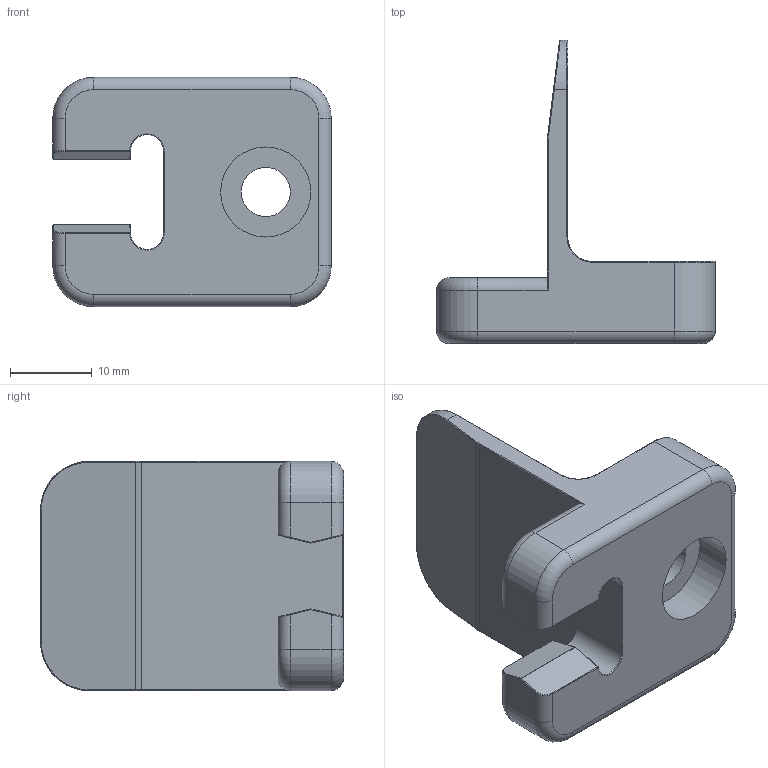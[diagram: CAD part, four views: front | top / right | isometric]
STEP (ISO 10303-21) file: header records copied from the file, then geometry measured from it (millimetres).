
FILE_DESCRIPTION (( 'STEP AP214' ), '1' );
FILE_NAME ('L19166-fixe.step', '2024-12-03T16:23:01', ( '' ), ( '' ), 'SwSTEP 2.0', 'SolidWorks 2023', '' );
FILE_SCHEMA (( 'AUTOMOTIVE_DESIGN' ));
Length unit declared in the file: millimetre
Products named in the file (1): L19166-fixe
Bounding box: 34 x 37 x 28 mm (x, y, z)
Volume: 8487.3 mm3; surface area: 4563.2 mm2
Topology: 1 solids, 1 shells, 103 faces, 235 edges, 131 vertices
Faces by surface type: cylinder 47, plane 20, torus 18, bspline 10, sphere 8
Full cylindrical faces by diameter (mm): 6 x1, 11 x1
Entity records: 3023 total; most frequent: CARTESIAN_POINT 760, DIRECTION 504, ORIENTED_EDGE 456, EDGE_CURVE 228, AXIS2_PLACEMENT_3D 206, VERTEX_POINT 130, CIRCLE 112, EDGE_LOOP 108
